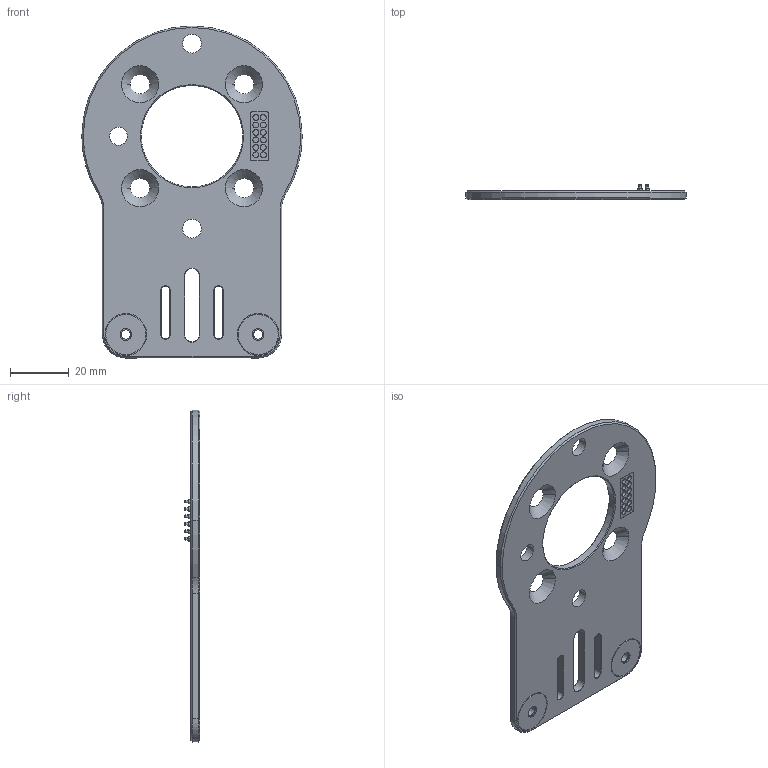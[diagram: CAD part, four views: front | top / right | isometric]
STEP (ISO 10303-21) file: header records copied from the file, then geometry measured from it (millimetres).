
FILE_DESCRIPTION (( 'STEP AP214' ), '1' );
FILE_NAME ('BC0033 触点摄像头固定板组件 20250717.STEP', '2025-07-17T04:20:50', ( '' ), ( '' ), 'SwSTEP 2.0', 'SolidWorks 2019', '' );
FILE_SCHEMA (( 'AUTOMOTIVE_DESIGN' ));
Length unit declared in the file: millimetre
Products named in the file (5): MM0154 摄像头固定板1305（定位销）A2; 摄像头固定板顶针胶壳（定位销）A2; 錨璃1^XI1305-_M; BC0033 触点摄像头固定板组件 20250717; 扜砉芛盓殤階渀
Assembly tree (16 placements, depth 2):
  BC0033 触点摄像头固定板组件 20250717
    MM0154 摄像头固定板1305（定位销）A2
    摄像头固定板顶针胶壳（定位销）A2
    扜砉芛盓殤階渀  x12
    錨璃1^XI1305-_M  x2
Bounding box: 75 x 5.3 x 113 mm (x, y, z)
Volume: 16138.8 mm3; surface area: 14485.9 mm2
Topology: 16 solids, 16 shells, 354 faces, 822 edges, 516 vertices
Faces by surface type: cylinder 179, plane 101, cone 50, sphere 24
Entity records: 7038 total; most frequent: DIRECTION 1314, CARTESIAN_POINT 1129, ORIENTED_EDGE 1084, EDGE_CURVE 542, AXIS2_PLACEMENT_3D 526, VERTEX_POINT 341, EDGE_LOOP 303, CIRCLE 280
